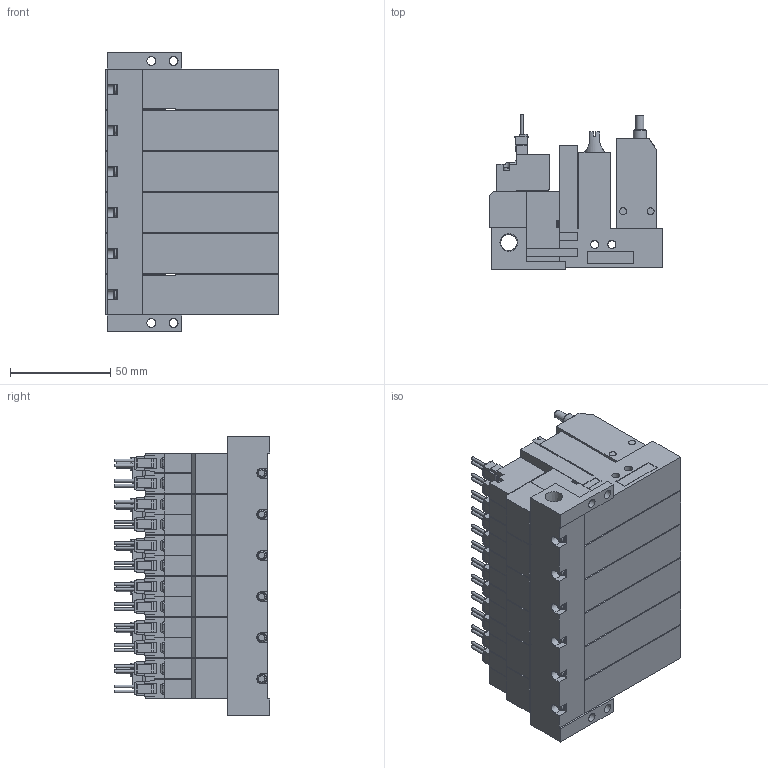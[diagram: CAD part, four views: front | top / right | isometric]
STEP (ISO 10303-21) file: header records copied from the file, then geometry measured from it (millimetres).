
FILE_DESCRIPTION(('STEP AP203'),'1');
FILE_NAME('ABS_ABPL5BLR606.stp','2025-02-19T02:12:03',(' '),(' '),'Spatial InterOp 3D',' ',' ');
FILE_SCHEMA(('CONFIG_CONTROL_DESIGN'));
Length unit declared in the file: millimetre
Products named in the file (5): BMC22M※※※※ABS_ABPL5BLR606; Solenoid valve B; Pressure sensor ABSL; Unit L; Base MR60R
Assembly tree (19 placements, depth 2):
  BMC22M※※※※ABS_ABPL5BLR606
    Solenoid valve B  x6
    Pressure sensor ABSL  x6
    Unit L  x6
    Base MR60R
Bounding box: 86.6 x 77.45 x 138.5 mm (x, y, z)
Volume: 534476.1 mm3; surface area: 147835 mm2
Topology: 19 solids, 19 shells, 2127 faces, 5705 edges, 3766 vertices
Faces by surface type: plane 1802, cylinder 257, cone 44, torus 24
Full cylindrical faces by diameter (mm): 1.4 x24, 2.5 x6, 3 x24, 3.5 x36, 3.6 x6, 4 x18, 4.134 x6, 4.5 x4, 5.2 x6, 6 x6, 6.5 x6, 6.6 x6, 8.279 x1
Entity records: 13995 total; most frequent: CARTESIAN_POINT 2679, DIRECTION 2235, ORIENTED_EDGE 2160, EDGE_CURVE 1080, LINE 859, VECTOR 859, VERTEX_POINT 762, AXIS2_PLACEMENT_3D 688
